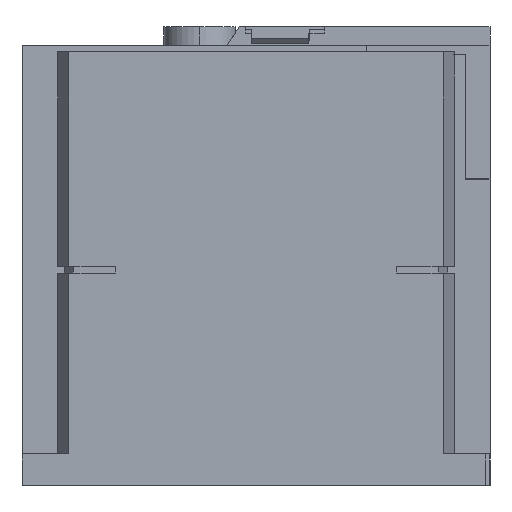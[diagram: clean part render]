
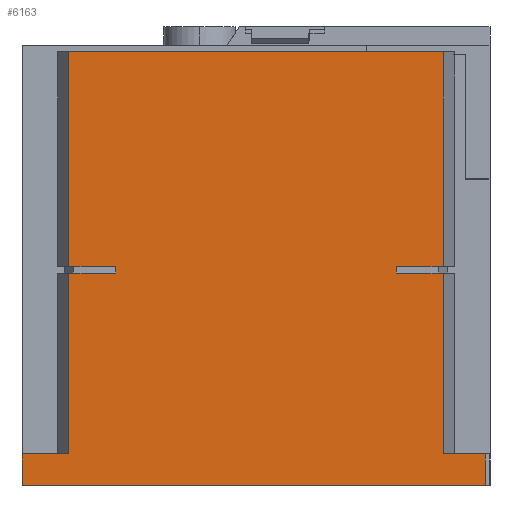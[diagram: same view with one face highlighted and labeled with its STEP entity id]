
A CAD part, left-side view. The second image highlights one B-rep face of the part: STEP entity #6163.
In plain terms, the highlighted planar face has unit normal (-1, 0, 0).
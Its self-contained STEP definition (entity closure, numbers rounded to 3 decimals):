
#37=DIRECTION('',(0.,-1.,0.));
#38=VECTOR('',#37,148.5);
#39=CARTESIAN_POINT('',(-110.,75.,0.));
#40=LINE('',#39,#38);
#165=DIRECTION('',(0.,-1.,0.));
#166=VECTOR('',#165,120.);
#167=CARTESIAN_POINT('',(-110.,60.,138.9));
#168=LINE('',#167,#166);
#169=DIRECTION('',(0.,1.,0.));
#170=VECTOR('',#169,15.);
#171=CARTESIAN_POINT('',(-110.,-60.,70.));
#172=LINE('',#171,#170);
#173=DIRECTION('',(0.,0.,1.));
#174=VECTOR('',#173,2.);
#175=CARTESIAN_POINT('',(-110.,-45.,68.));
#176=LINE('',#175,#174);
#177=DIRECTION('',(0.,1.,0.));
#178=VECTOR('',#177,15.);
#179=CARTESIAN_POINT('',(-110.,-60.,68.));
#180=LINE('',#179,#178);
#181=DIRECTION('',(0.,0.,-1.));
#182=VECTOR('',#181,58.);
#183=CARTESIAN_POINT('',(-110.,-60.,68.));
#184=LINE('',#183,#182);
#185=DIRECTION('',(0.,-1.,0.));
#186=VECTOR('',#185,13.5);
#187=CARTESIAN_POINT('',(-110.,-60.,10.));
#188=LINE('',#187,#186);
#189=DIRECTION('',(0.,0.,1.));
#190=VECTOR('',#189,10.);
#191=CARTESIAN_POINT('',(-110.,-73.5,0.));
#192=LINE('',#191,#190);
#193=DIRECTION('',(0.,0.,1.));
#194=VECTOR('',#193,10.);
#195=CARTESIAN_POINT('',(-110.,75.,0.));
#196=LINE('',#195,#194);
#197=DIRECTION('',(0.,-1.,0.));
#198=VECTOR('',#197,15.);
#199=CARTESIAN_POINT('',(-110.,75.,10.));
#200=LINE('',#199,#198);
#201=DIRECTION('',(0.,0.,-1.));
#202=VECTOR('',#201,58.);
#203=CARTESIAN_POINT('',(-110.,60.,68.));
#204=LINE('',#203,#202);
#205=DIRECTION('',(0.,1.,0.));
#206=VECTOR('',#205,15.);
#207=CARTESIAN_POINT('',(-110.,45.,68.));
#208=LINE('',#207,#206);
#209=DIRECTION('',(0.,0.,1.));
#210=VECTOR('',#209,2.);
#211=CARTESIAN_POINT('',(-110.,45.,68.));
#212=LINE('',#211,#210);
#213=DIRECTION('',(0.,1.,0.));
#214=VECTOR('',#213,15.);
#215=CARTESIAN_POINT('',(-110.,45.,70.));
#216=LINE('',#215,#214);
#225=DIRECTION('',(0.,0.,-1.));
#226=VECTOR('',#225,68.9);
#227=CARTESIAN_POINT('',(-110.,60.,138.9));
#228=LINE('',#227,#226);
#373=DIRECTION('',(0.,0.,1.));
#374=VECTOR('',#373,68.9);
#375=CARTESIAN_POINT('',(-110.,-60.,70.));
#376=LINE('',#375,#374);
#4510=CARTESIAN_POINT('',(-110.,75.,0.));
#4512=VERTEX_POINT('',#4510);
#4513=CARTESIAN_POINT('',(-110.,75.,10.));
#4514=CARTESIAN_POINT('',(-110.,60.,10.));
#4515=VERTEX_POINT('',#4513);
#4516=VERTEX_POINT('',#4514);
#4539=CARTESIAN_POINT('',(-110.,-60.,10.));
#4540=VERTEX_POINT('',#4539);
#4559=CARTESIAN_POINT('',(-110.,-73.5,0.));
#4561=VERTEX_POINT('',#4559);
#4569=CARTESIAN_POINT('',(-110.,-73.5,10.));
#4570=VERTEX_POINT('',#4569);
#4733=CARTESIAN_POINT('',(-110.,-60.,68.));
#4734=CARTESIAN_POINT('',(-110.,-45.,68.));
#4735=VERTEX_POINT('',#4733);
#4736=VERTEX_POINT('',#4734);
#4737=CARTESIAN_POINT('',(-110.,45.,68.));
#4738=CARTESIAN_POINT('',(-110.,60.,68.));
#4739=VERTEX_POINT('',#4737);
#4740=VERTEX_POINT('',#4738);
#4741=CARTESIAN_POINT('',(-110.,-60.,70.));
#4742=CARTESIAN_POINT('',(-110.,-45.,70.));
#4743=VERTEX_POINT('',#4741);
#4744=VERTEX_POINT('',#4742);
#4745=CARTESIAN_POINT('',(-110.,45.,70.));
#4746=CARTESIAN_POINT('',(-110.,60.,70.));
#4747=VERTEX_POINT('',#4745);
#4748=VERTEX_POINT('',#4746);
#5187=CARTESIAN_POINT('',(-110.,60.,138.9));
#5188=CARTESIAN_POINT('',(-110.,-60.,138.9));
#5189=VERTEX_POINT('',#5187);
#5190=VERTEX_POINT('',#5188);
#6127=CARTESIAN_POINT('',(-110.,75.,0.));
#6128=DIRECTION('',(-1.,0.,0.));
#6129=DIRECTION('',(0.,-1.,0.));
#6130=AXIS2_PLACEMENT_3D('',#6127,#6128,#6129);
#6131=PLANE('',#6130);
#6133=ORIENTED_EDGE('',*,*,#6132,.F.);
#6135=ORIENTED_EDGE('',*,*,#6134,.T.);
#6137=ORIENTED_EDGE('',*,*,#6136,.F.);
#6139=ORIENTED_EDGE('',*,*,#6138,.T.);
#6141=ORIENTED_EDGE('',*,*,#6140,.F.);
#6143=ORIENTED_EDGE('',*,*,#6142,.F.);
#6145=ORIENTED_EDGE('',*,*,#6144,.T.);
#6146=ORIENTED_EDGE('',*,*,#6110,.T.);
#6148=ORIENTED_EDGE('',*,*,#6147,.F.);
#6149=ORIENTED_EDGE('',*,*,#5978,.F.);
#6151=ORIENTED_EDGE('',*,*,#6150,.T.);
#6152=ORIENTED_EDGE('',*,*,#6042,.T.);
#6154=ORIENTED_EDGE('',*,*,#6153,.F.);
#6156=ORIENTED_EDGE('',*,*,#6155,.F.);
#6158=ORIENTED_EDGE('',*,*,#6157,.T.);
#6160=ORIENTED_EDGE('',*,*,#6159,.T.);
#6161=EDGE_LOOP('',(#6133,#6135,#6137,#6139,#6141,#6143,#6145,#6146,#6148,#6149,
#6151,#6152,#6154,#6156,#6158,#6160));
#6162=FACE_OUTER_BOUND('',#6161,.F.);
#6163=ADVANCED_FACE('',(#6162),#6131,.T.);
#5978=EDGE_CURVE('',#4512,#4561,#40,.T.);
#6042=EDGE_CURVE('',#4515,#4516,#200,.T.);
#6110=EDGE_CURVE('',#4540,#4570,#188,.T.);
#6132=EDGE_CURVE('',#5189,#4748,#228,.T.);
#6134=EDGE_CURVE('',#5189,#5190,#168,.T.);
#6136=EDGE_CURVE('',#4743,#5190,#376,.T.);
#6138=EDGE_CURVE('',#4743,#4744,#172,.T.);
#6140=EDGE_CURVE('',#4736,#4744,#176,.T.);
#6142=EDGE_CURVE('',#4735,#4736,#180,.T.);
#6144=EDGE_CURVE('',#4735,#4540,#184,.T.);
#6147=EDGE_CURVE('',#4561,#4570,#192,.T.);
#6150=EDGE_CURVE('',#4512,#4515,#196,.T.);
#6153=EDGE_CURVE('',#4740,#4516,#204,.T.);
#6155=EDGE_CURVE('',#4739,#4740,#208,.T.);
#6157=EDGE_CURVE('',#4739,#4747,#212,.T.);
#6159=EDGE_CURVE('',#4747,#4748,#216,.T.);
